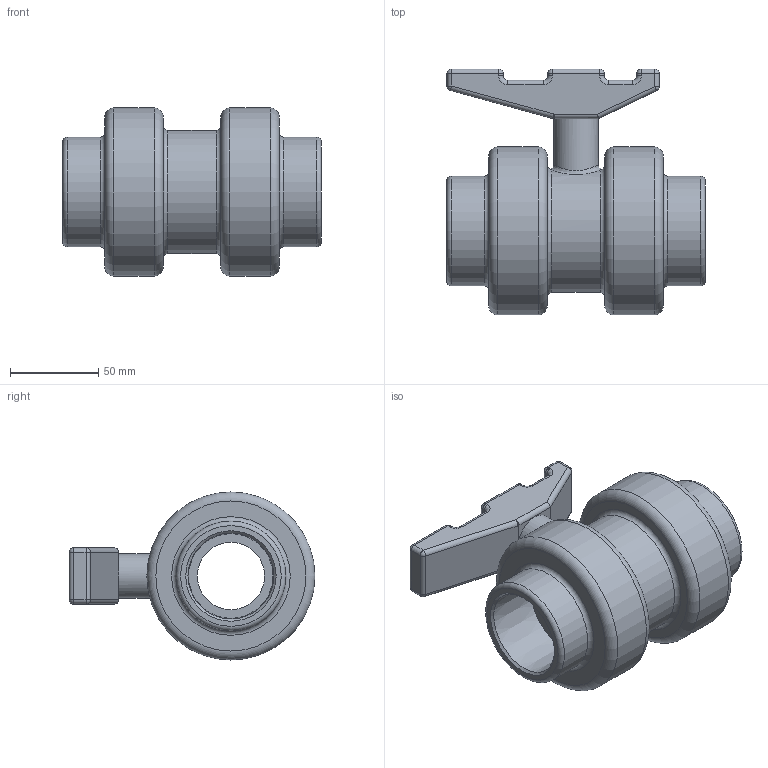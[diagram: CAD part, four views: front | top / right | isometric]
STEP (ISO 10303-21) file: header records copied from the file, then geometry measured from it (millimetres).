
FILE_DESCRIPTION (( 'STEP AP214' ), '1' );
FILE_NAME ('1-½ inch - 801 Series TUBV.step', '2020-12-08T09:04:50', ( '' ), ( '' ), 'SwSTEP 2.0', 'SolidWorks 2019', '' );
FILE_SCHEMA (( 'AUTOMOTIVE_DESIGN' ));
Length unit declared in the file: inch
Products named in the file (1): 1-ｽ inch - 801 Series TUBV
Bounding box: 146 x 138.99 x 95 mm (x, y, z)
Volume: 606903.1 mm3; surface area: 84107.8 mm2
Topology: 1 solids, 1 shells, 116 faces, 257 edges, 133 vertices
Faces by surface type: cylinder 49, plane 25, torus 18, sphere 18, cone 3, bspline 3
Full cylindrical faces by diameter (mm): 25.4 x1, 37.998 x1, 62.001 x2, 94.996 x2
Entity records: 4904 total; most frequent: CARTESIAN_POINT 984, DIRECTION 552, ORIENTED_EDGE 428, AXIS2_PLACEMENT_3D 233, EDGE_CURVE 214, EDGE_LOOP 144, FACE_OUTER_BOUND 133, VERTEX_POINT 126
